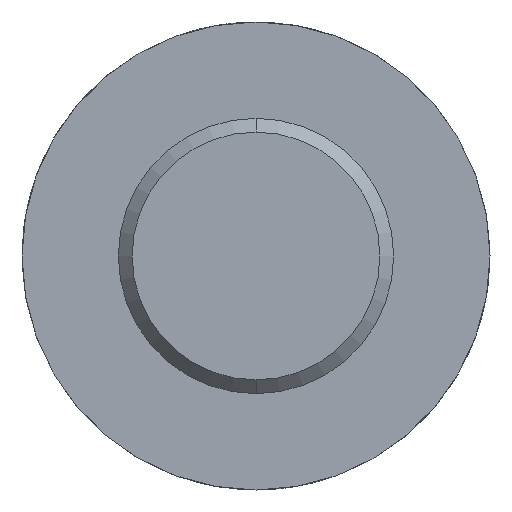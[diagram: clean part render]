
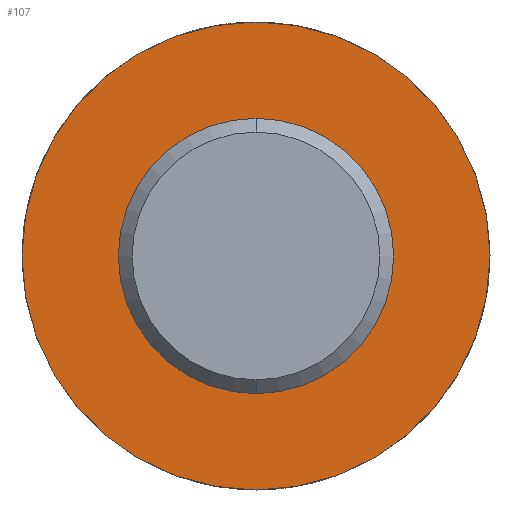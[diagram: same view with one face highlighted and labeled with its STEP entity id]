
A CAD part, front view. The second image highlights one B-rep face of the part: STEP entity #107.
In plain terms, the highlighted planar face has unit normal (0, -1, 0).
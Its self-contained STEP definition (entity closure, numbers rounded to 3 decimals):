
#9 = AXIS2_PLACEMENT_3D ( 'NONE', #541, #565, #563 ) ;
#27 = ORIENTED_EDGE ( 'NONE', *, *, #30, .F. ) ;
#30 = EDGE_CURVE ( 'NONE', #45, #478, #566, .T. ) ;
#41 = EDGE_CURVE ( 'NONE', #461, #531, #450, .T. ) ;
#45 = VERTEX_POINT ( 'NONE', #539 ) ;
#62 = FACE_BOUND ( 'NONE', #385, .T. ) ;
#81 = CARTESIAN_POINT ( 'NONE',  ( 0., 0., -2. ) ) ;
#107 = ADVANCED_FACE ( 'NONE', ( #442, #62 ), #388, .T. ) ;
#134 = DIRECTION ( 'NONE',  ( 0., 0., -1. ) ) ;
#153 = ORIENTED_EDGE ( 'NONE', *, *, #323, .F. ) ;
#196 = CARTESIAN_POINT ( 'NONE',  ( 0., 0., 2. ) ) ;
#225 = CIRCLE ( 'NONE', #282, 3.4 ) ;
#229 = AXIS2_PLACEMENT_3D ( 'NONE', #345, #340, #134 ) ;
#245 = CARTESIAN_POINT ( 'NONE',  ( 0., 0., 3.4 ) ) ;
#262 = EDGE_LOOP ( 'NONE', ( #153, #27 ) ) ;
#282 = AXIS2_PLACEMENT_3D ( 'NONE', #614, #515, #555 ) ;
#323 = EDGE_CURVE ( 'NONE', #478, #45, #225, .T. ) ;
#340 = DIRECTION ( 'NONE',  ( 0., -1., 0. ) ) ;
#344 = CIRCLE ( 'NONE', #229, 2. ) ;
#345 = CARTESIAN_POINT ( 'NONE',  ( 0., 0., 0. ) ) ;
#346 = EDGE_CURVE ( 'NONE', #531, #461, #344, .T. ) ;
#382 = DIRECTION ( 'NONE',  ( 0., 0., -1. ) ) ;
#385 = EDGE_LOOP ( 'NONE', ( #494, #432 ) ) ;
#387 = DIRECTION ( 'NONE',  ( 0., -1., 0. ) ) ;
#388 = PLANE ( 'NONE',  #598 ) ;
#432 = ORIENTED_EDGE ( 'NONE', *, *, #346, .F. ) ;
#442 = FACE_OUTER_BOUND ( 'NONE', #262, .T. ) ;
#450 = CIRCLE ( 'NONE', #604, 2. ) ;
#461 = VERTEX_POINT ( 'NONE', #196 ) ;
#478 = VERTEX_POINT ( 'NONE', #245 ) ;
#494 = ORIENTED_EDGE ( 'NONE', *, *, #41, .F. ) ;
#514 = DIRECTION ( 'NONE',  ( 0., 0., -1. ) ) ;
#515 = DIRECTION ( 'NONE',  ( 0., 1., 0. ) ) ;
#520 = CARTESIAN_POINT ( 'NONE',  ( 0., 0., 0. ) ) ;
#524 = CARTESIAN_POINT ( 'NONE',  ( -3.4, 0., 0. ) ) ;
#531 = VERTEX_POINT ( 'NONE', #81 ) ;
#539 = CARTESIAN_POINT ( 'NONE',  ( 0., 0., -3.4 ) ) ;
#541 = CARTESIAN_POINT ( 'NONE',  ( 0., 0., 0. ) ) ;
#555 = DIRECTION ( 'NONE',  ( 0., 0., 1. ) ) ;
#563 = DIRECTION ( 'NONE',  ( 0., 0., 1. ) ) ;
#565 = DIRECTION ( 'NONE',  ( 0., 1., 0. ) ) ;
#566 = CIRCLE ( 'NONE', #9, 3.4 ) ;
#598 = AXIS2_PLACEMENT_3D ( 'NONE', #524, #387, #382 ) ;
#604 = AXIS2_PLACEMENT_3D ( 'NONE', #520, #618, #514 ) ;
#614 = CARTESIAN_POINT ( 'NONE',  ( 0., 0., 0. ) ) ;
#618 = DIRECTION ( 'NONE',  ( 0., -1., 0. ) ) ;
